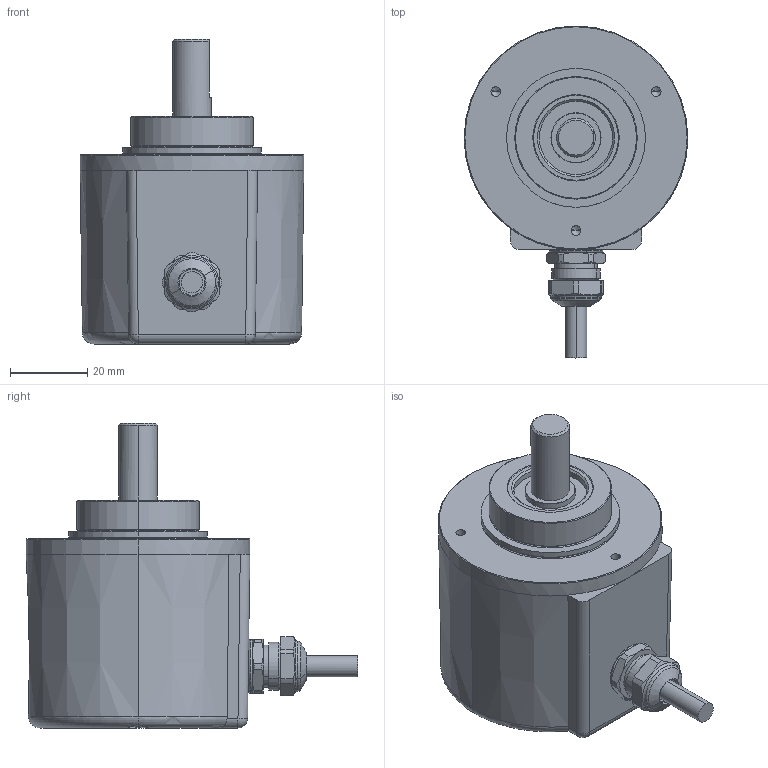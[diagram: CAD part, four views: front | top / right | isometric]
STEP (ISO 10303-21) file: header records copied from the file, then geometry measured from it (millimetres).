
FILE_DESCRIPTION (( 'STEP AP203' ), '1' );
FILE_NAME ('E58CM.SSI.212##.STEP', '2022-10-21T11:24:32', ( '' ), ( '' ), 'SwSTEP 2.0', 'SolidWorks 2021', '' );
FILE_SCHEMA (( 'CONFIG_CONTROL_DESIGN' ));
Length unit declared in the file: millimetre
Products named in the file (1): E58CM.SSI.212##
Bounding box: 58 x 85.99 x 79.2 mm (x, y, z)
Volume: 139845.2 mm3; surface area: 18800 mm2
Topology: 3 solids, 6 shells, 360 faces, 863 edges, 527 vertices
Faces by surface type: plane 175, cylinder 77, cone 67, torus 35, sphere 6
Entity records: 10724 total; most frequent: CARTESIAN_POINT 2239, DIRECTION 1827, ORIENTED_EDGE 1706, EDGE_CURVE 853, AXIS2_PLACEMENT_3D 689, VERTEX_POINT 527, LINE 449, VECTOR 449
